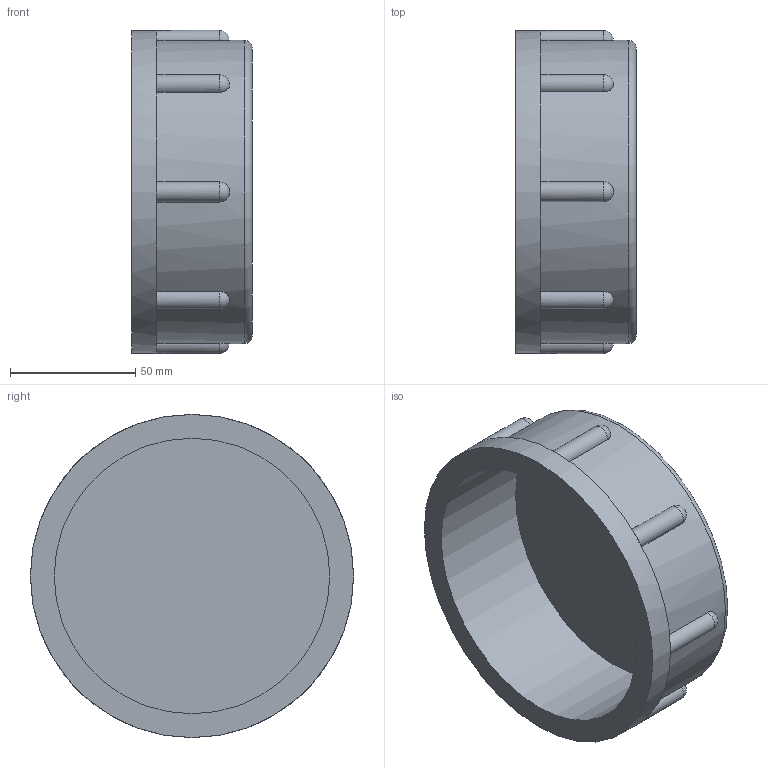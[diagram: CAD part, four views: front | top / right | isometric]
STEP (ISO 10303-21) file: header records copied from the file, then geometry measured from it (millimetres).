
FILE_DESCRIPTION(/* description */ (''),/* implementation_level */ '2;1');
FILE_NAME(/* name */ 'Z:\Geberit\Export\NewStep\240331.stp',/* time_stamp */ '2014-04-01T19:58:30+02:00',/* author */ ('Marco'),/* organization */ (''),/* preprocessor_version */ 'ST-DEVELOPER v15.2',/* originating_system */ 'Autodesk Inventor 2014',/* authorisation */ '');
FILE_SCHEMA (('AUTOMOTIVE_DESIGN { 1 0 10303 214 3 1 1 }'));
Length unit declared in the file: millimetre
Products named in the file (1): 240331
Bounding box: 48 x 129 x 129 mm (x, y, z)
Volume: 173436.6 mm3; surface area: 59627.8 mm2
Topology: 1 solids, 1 shells, 31 faces, 89 edges, 53 vertices
Faces by surface type: cylinder 11, plane 11, sphere 8, torus 1
Full cylindrical faces by diameter (mm): 110 x1, 121 x1, 129 x1
Entity records: 1152 total; most frequent: CARTESIAN_POINT 338, DIRECTION 170, ORIENTED_EDGE 154, EDGE_CURVE 77, AXIS2_PLACEMENT_3D 77, VERTEX_POINT 53, CIRCLE 45, EDGE_LOOP 36
